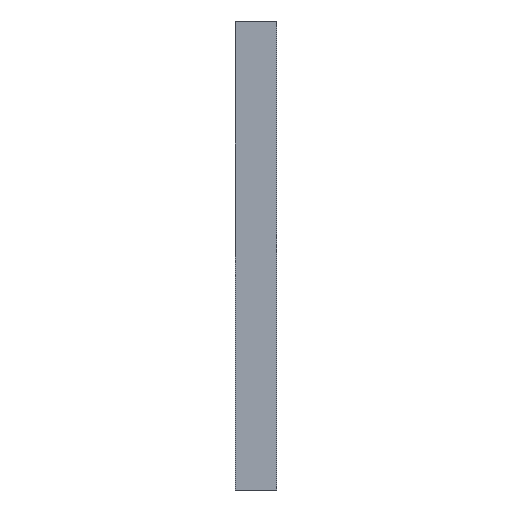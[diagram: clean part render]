
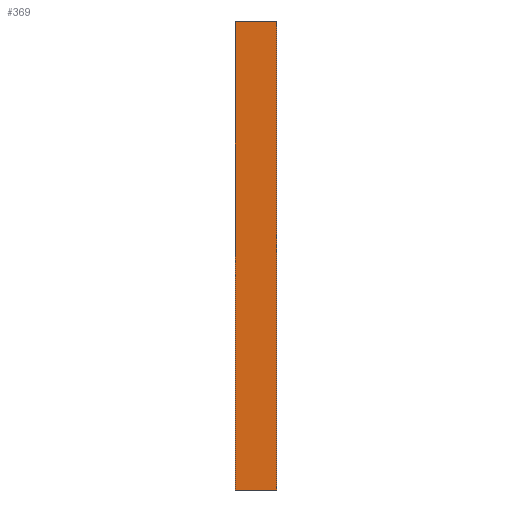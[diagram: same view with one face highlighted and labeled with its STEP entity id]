
A CAD part, left-side view. The second image highlights one B-rep face of the part: STEP entity #369.
In plain terms, the highlighted planar face has unit normal (-1, 0, 0).
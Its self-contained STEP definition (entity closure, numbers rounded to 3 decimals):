
#292 = ORIENTED_EDGE ( 'NONE', *, *, #293, .T. ) ;
#293 = EDGE_CURVE ( 'NONE', #380, #374, #918, .T. ) ;
#369 = ADVANCED_FACE ( 'NONE', ( #1180 ), #1081, .T. ) ;
#370 = EDGE_LOOP ( 'NONE', ( #371, #375, #378, #292 ) ) ;
#371 = ORIENTED_EDGE ( 'NONE', *, *, #372, .F. ) ;
#372 = EDGE_CURVE ( 'NONE', #373, #374, #1162, .T. ) ;
#373 = VERTEX_POINT ( 'NONE', #1167 ) ;
#374 = VERTEX_POINT ( 'NONE', #1087 ) ;
#375 = ORIENTED_EDGE ( 'NONE', *, *, #376, .F. ) ;
#376 = EDGE_CURVE ( 'NONE', #377, #373, #1123, .T. ) ;
#377 = VERTEX_POINT ( 'NONE', #1133 ) ;
#378 = ORIENTED_EDGE ( 'NONE', *, *, #379, .T. ) ;
#379 = EDGE_CURVE ( 'NONE', #377, #380, #1114, .T. ) ;
#380 = VERTEX_POINT ( 'NONE', #1110 ) ;
#915 = DIRECTION ( 'NONE',  ( 0., 1., 0. ) ) ;
#916 = VECTOR ( 'NONE', #915, 1000. ) ;
#917 = CARTESIAN_POINT ( 'NONE',  ( -200., -25., 142.5 ) ) ;
#918 = LINE ( 'NONE', #917, #916 ) ;
#1081 = PLANE ( 'NONE',  #1090 ) ;
#1087 = CARTESIAN_POINT ( 'NONE',  ( -200., 0., 142.5 ) ) ;
#1089 = CARTESIAN_POINT ( 'NONE',  ( -200., 0., -142.5 ) ) ;
#1090 = AXIS2_PLACEMENT_3D ( 'NONE', #1178, #1164, #1163 ) ;
#1110 = CARTESIAN_POINT ( 'NONE',  ( -200., -25., 142.5 ) ) ;
#1111 = DIRECTION ( 'NONE',  ( 0., 0., 1. ) ) ;
#1112 = VECTOR ( 'NONE', #1111, 1000. ) ;
#1113 = CARTESIAN_POINT ( 'NONE',  ( -200., -25., -142.5 ) ) ;
#1114 = LINE ( 'NONE', #1113, #1112 ) ;
#1122 = CARTESIAN_POINT ( 'NONE',  ( -200., -25., -142.5 ) ) ;
#1123 = LINE ( 'NONE', #1122, #1135 ) ;
#1133 = CARTESIAN_POINT ( 'NONE',  ( -200., -25., -142.5 ) ) ;
#1134 = DIRECTION ( 'NONE',  ( 0., 1., 0. ) ) ;
#1135 = VECTOR ( 'NONE', #1134, 1000. ) ;
#1162 = LINE ( 'NONE', #1089, #1169 ) ;
#1163 = DIRECTION ( 'NONE',  ( 0., 0., 1. ) ) ;
#1164 = DIRECTION ( 'NONE',  ( -1., 0., 0. ) ) ;
#1167 = CARTESIAN_POINT ( 'NONE',  ( -200., 0., -142.5 ) ) ;
#1168 = DIRECTION ( 'NONE',  ( 0., 0., 1. ) ) ;
#1169 = VECTOR ( 'NONE', #1168, 1000. ) ;
#1178 = CARTESIAN_POINT ( 'NONE',  ( -200., -25., -142.5 ) ) ;
#1180 = FACE_OUTER_BOUND ( 'NONE', #370, .T. ) ;
